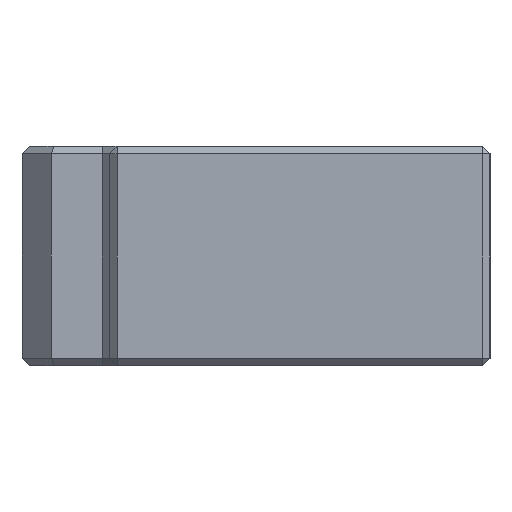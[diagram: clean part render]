
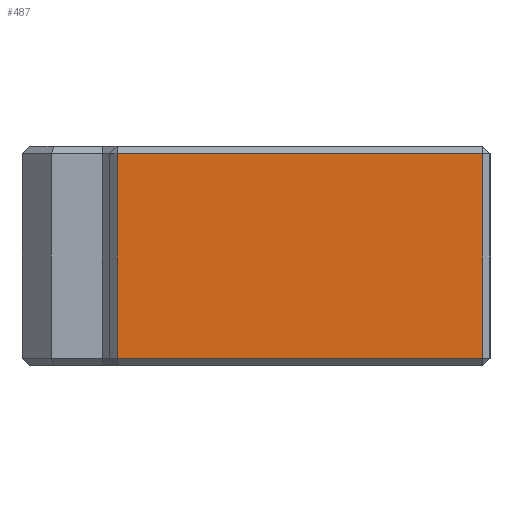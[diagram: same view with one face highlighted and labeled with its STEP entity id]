
A CAD part, left-side view. The second image highlights one B-rep face of the part: STEP entity #487.
In plain terms, the highlighted planar face has unit normal (-1, 0, 0).
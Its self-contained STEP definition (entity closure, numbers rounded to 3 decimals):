
#487 = ADVANCED_FACE ( 'NONE', ( #3186 ), #3185, .F. ) ;
#488 = EDGE_LOOP ( 'NONE', ( #489, #493, #792, #628 ) ) ;
#489 = ORIENTED_EDGE ( 'NONE', *, *, #490, .T. ) ;
#490 = EDGE_CURVE ( 'NONE', #491, #492, #3228, .T. ) ;
#491 = VERTEX_POINT ( 'NONE', #3224 ) ;
#492 = VERTEX_POINT ( 'NONE', #3223 ) ;
#493 = ORIENTED_EDGE ( 'NONE', *, *, #790, .T. ) ;
#626 = EDGE_CURVE ( 'NONE', #791, #627, #3348, .T. ) ;
#627 = VERTEX_POINT ( 'NONE', #3731 ) ;
#628 = ORIENTED_EDGE ( 'NONE', *, *, #629, .T. ) ;
#629 = EDGE_CURVE ( 'NONE', #627, #491, #3729, .T. ) ;
#790 = EDGE_CURVE ( 'NONE', #492, #791, #3889, .T. ) ;
#791 = VERTEX_POINT ( 'NONE', #4111 ) ;
#792 = ORIENTED_EDGE ( 'NONE', *, *, #626, .T. ) ;
#3185 = PLANE ( 'NONE',  #3190 ) ;
#3186 = FACE_OUTER_BOUND ( 'NONE', #488, .T. ) ;
#3187 = DIRECTION ( 'NONE',  ( 0., 0., -1. ) ) ;
#3188 = DIRECTION ( 'NONE',  ( 1., 0., 0. ) ) ;
#3189 = CARTESIAN_POINT ( 'NONE',  ( -26., 0., 7.5 ) ) ;
#3190 = AXIS2_PLACEMENT_3D ( 'NONE', #3189, #3188, #3187 ) ;
#3223 = CARTESIAN_POINT ( 'NONE',  ( -26., 0.5, -7. ) ) ;
#3224 = CARTESIAN_POINT ( 'NONE',  ( -26., 25.5, -7. ) ) ;
#3225 = DIRECTION ( 'NONE',  ( 0., -1., 0. ) ) ;
#3226 = VECTOR ( 'NONE', #3225, 1000. ) ;
#3227 = CARTESIAN_POINT ( 'NONE',  ( -26., 0., -7. ) ) ;
#3228 = LINE ( 'NONE', #3227, #3226 ) ;
#3343 = CARTESIAN_POINT ( 'NONE',  ( -26., 0., 7. ) ) ;
#3348 = LINE ( 'NONE', #3343, #3591 ) ;
#3590 = DIRECTION ( 'NONE',  ( 0., 1., 0. ) ) ;
#3591 = VECTOR ( 'NONE', #3590, 1000. ) ;
#3726 = DIRECTION ( 'NONE',  ( 0., 0., -1. ) ) ;
#3727 = VECTOR ( 'NONE', #3726, 1000. ) ;
#3728 = CARTESIAN_POINT ( 'NONE',  ( -26., 25.5, 7.5 ) ) ;
#3729 = LINE ( 'NONE', #3728, #3727 ) ;
#3731 = CARTESIAN_POINT ( 'NONE',  ( -26., 25.5, 7. ) ) ;
#3889 = LINE ( 'NONE', #3906, #3905 ) ;
#3905 = VECTOR ( 'NONE', #4112, 1000. ) ;
#3906 = CARTESIAN_POINT ( 'NONE',  ( -26., 0.5, 7.5 ) ) ;
#4111 = CARTESIAN_POINT ( 'NONE',  ( -26., 0.5, 7. ) ) ;
#4112 = DIRECTION ( 'NONE',  ( 0., 0., 1. ) ) ;
